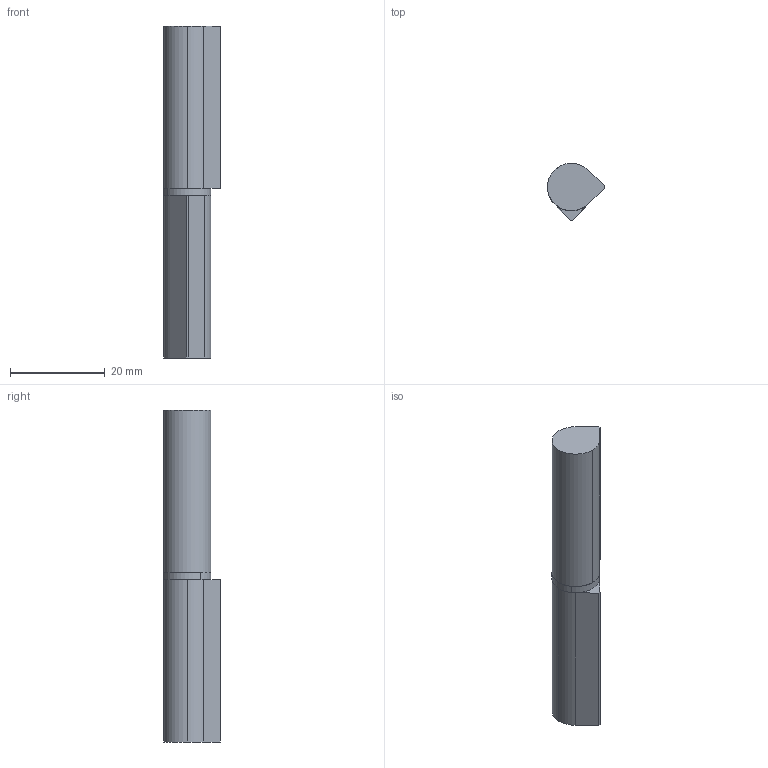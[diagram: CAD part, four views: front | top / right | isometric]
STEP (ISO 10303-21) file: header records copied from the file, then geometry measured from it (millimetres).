
FILE_DESCRIPTION (( 'STEP AP214' ), '1' );
FILE_NAME ('3.ST7-2.002.STEP', '2016-09-09T09:30:53', ( '' ), ( '' ), 'SwSTEP 2.0', 'SolidWorks 2015', '' );
FILE_SCHEMA (( 'AUTOMOTIVE_DESIGN' ));
Length unit declared in the file: millimetre
Products named in the file (4): 3.ST7-1.002.02_A; 3.ST7-2.002.01_B; 3.ST7-2.002; 3.ST7-1.002.03_A
Assembly tree (4 placements, depth 2):
  3.ST7-2.002
    3.ST7-2.002.01_B  x2
    3.ST7-1.002.02_A
    3.ST7-1.002.03_A
Bounding box: 12 x 12 x 70 mm (x, y, z)
Volume: 5752.9 mm3; surface area: 4097.1 mm2
Topology: 4 solids, 4 shells, 74 faces, 156 edges, 98 vertices
Faces by surface type: plane 34, cylinder 28, cone 12
Entity records: 1768 total; most frequent: DIRECTION 328, CARTESIAN_POINT 268, ORIENTED_EDGE 244, AXIS2_PLACEMENT_3D 139, EDGE_CURVE 122, VERTEX_POINT 79, EDGE_LOOP 73, CIRCLE 72
